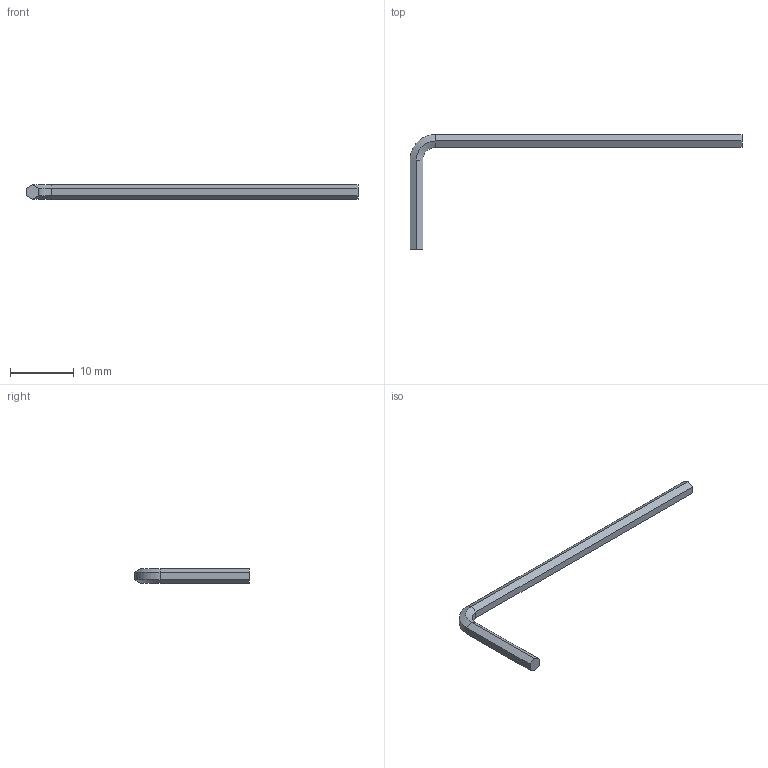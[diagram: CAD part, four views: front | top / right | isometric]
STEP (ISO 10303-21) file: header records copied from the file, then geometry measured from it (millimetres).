
FILE_DESCRIPTION(/* description */ (''),/* implementation_level */ '2;1');
FILE_NAME(/* name */ 'C:\Users\D\Documents\Inventor\各種小物\JIS\02-分解工具\六角棒スパナ2\hk-2.stp',/* time_stamp */ '2022-04-21T13:53:55+09:00',/* author */ ('D'),/* organization */ (''),/* preprocessor_version */ 'ST-DEVELOPER v18',/* originating_system */ 'Autodesk Inventor 2020',/* authorisation */ '');
FILE_SCHEMA (('AUTOMOTIVE_DESIGN { 1 0 10303 214 3 1 1 }'));
Length unit declared in the file: millimetre
Products named in the file (1): hk-0.7
Bounding box: 52 x 18 x 2.31 mm (x, y, z)
Volume: 231.1 mm3; surface area: 469.1 mm2
Topology: 1 solids, 1 shells, 20 faces, 42 edges, 24 vertices
Faces by surface type: plane 14, cone 4, cylinder 2
Entity records: 557 total; most frequent: DIRECTION 90, CARTESIAN_POINT 87, ORIENTED_EDGE 84, EDGE_CURVE 42, LINE 36, VECTOR 36, AXIS2_PLACEMENT_3D 27, VERTEX_POINT 24
